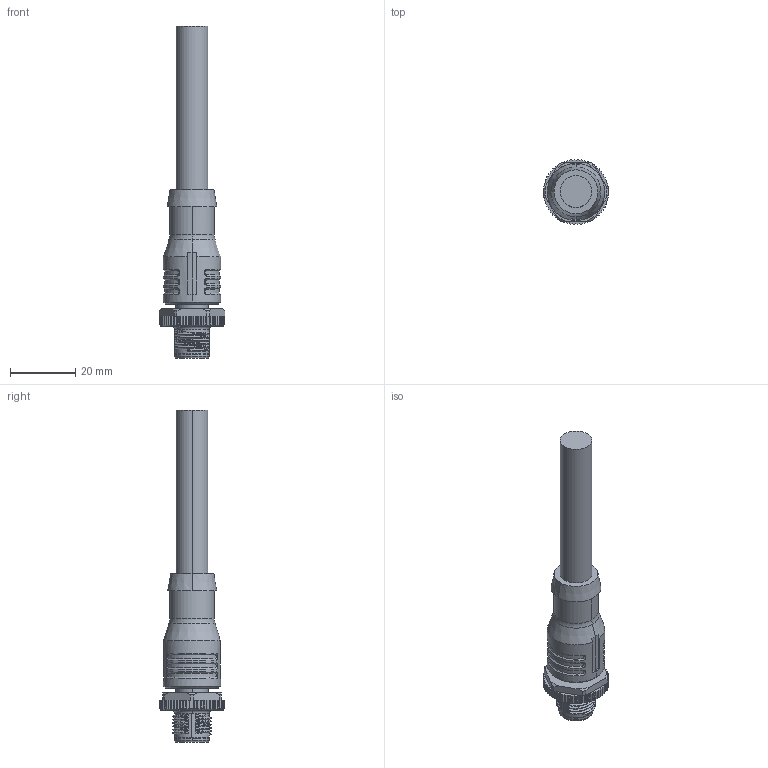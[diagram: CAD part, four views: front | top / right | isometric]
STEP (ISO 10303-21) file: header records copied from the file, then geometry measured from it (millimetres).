
FILE_DESCRIPTION((''),'2;1');
FILE_NAME('64LS21-XXX','2023-02-03T',('PC'),(''),'PRO/ENGINEER BY PARAMETRIC TECHNOLOGY CORPORATION, 2009220','PRO/ENGINEER BY PARAMETRIC TECHNOLOGY CORPORATION, 2009220','');
FILE_SCHEMA(('CONFIG_CONTROL_DESIGN'));
Length unit declared in the file: millimetre
Products named in the file (1): 64LS21-XXX
Bounding box: 20 x 19.98 x 101.5 mm (x, y, z)
Volume: 12498.3 mm3; surface area: 6557 mm2
Topology: 1 solids, 11 shells, 488 faces, 1298 edges, 845 vertices
Faces by surface type: plane 220, cylinder 122, cone 74, bspline 53, torus 11, sphere 8
Entity records: 22180 total; most frequent: CARTESIAN_POINT 10473, ORIENTED_EDGE 2576, DIRECTION 2215, EDGE_CURVE 1288, VERTEX_POINT 845, AXIS2_PLACEMENT_3D 824, VECTOR 567, LINE 567
